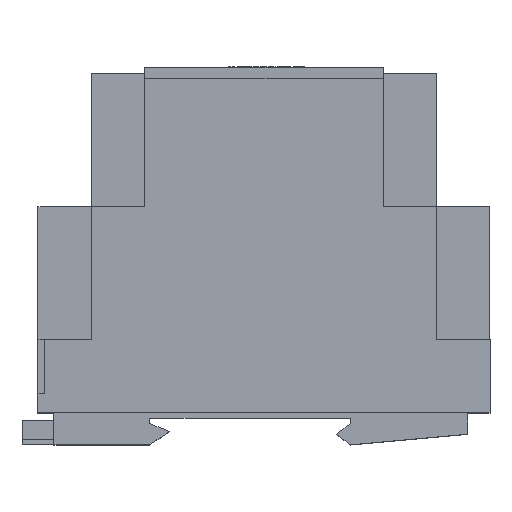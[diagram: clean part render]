
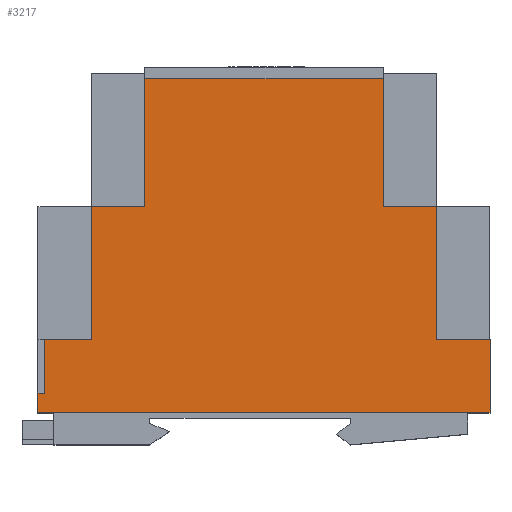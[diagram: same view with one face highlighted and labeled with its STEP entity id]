
A CAD part, top view. The second image highlights one B-rep face of the part: STEP entity #3217.
In plain terms, the highlighted planar face has unit normal (0, 0, 1).
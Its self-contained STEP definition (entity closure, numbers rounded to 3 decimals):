
#154 = LINE ( 'NONE', #4936, #12583 ) ;
#169 = VECTOR ( 'NONE', #1747, 1000. ) ;
#214 = EDGE_CURVE ( 'NONE', #12492, #4105, #4545, .T. ) ;
#321 = EDGE_CURVE ( 'NONE', #7205, #1597, #9684, .T. ) ;
#500 = CARTESIAN_POINT ( 'NONE',  ( -64.8, 0., 1.3 ) ) ;
#750 = VERTEX_POINT ( 'NONE', #12467 ) ;
#866 = DIRECTION ( 'NONE',  ( 1., 0., 0. ) ) ;
#1015 = ORIENTED_EDGE ( 'NONE', *, *, #12657, .F. ) ;
#1215 = DIRECTION ( 'NONE',  ( 1., 0., 0. ) ) ;
#1597 = VERTEX_POINT ( 'NONE', #3608 ) ;
#1713 = CARTESIAN_POINT ( 'NONE',  ( 0., 13.7, 1.3 ) ) ;
#1747 = DIRECTION ( 'NONE',  ( 0., -1., 0. ) ) ;
#1795 = DIRECTION ( 'NONE',  ( 0., 1., 0. ) ) ;
#1848 = EDGE_CURVE ( 'NONE', #13716, #14100, #10189, .T. ) ;
#2112 = CARTESIAN_POINT ( 'NONE',  ( -74.8, 13.7, 1.3 ) ) ;
#2128 = PLANE ( 'NONE',  #3010 ) ;
#2403 = VECTOR ( 'NONE', #5076, 1000. ) ;
#2537 = LINE ( 'NONE', #500, #10865 ) ;
#3010 = AXIS2_PLACEMENT_3D ( 'NONE', #3203, #9004, #8951 ) ;
#3153 = VECTOR ( 'NONE', #11023, 1000. ) ;
#3203 = CARTESIAN_POINT ( 'NONE',  ( 0., 0., 1.3 ) ) ;
#3217 = ADVANCED_FACE ( 'NONE', ( #5017 ), #2128, .T. ) ;
#3451 = ORIENTED_EDGE ( 'NONE', *, *, #1848, .F. ) ;
#3599 = DIRECTION ( 'NONE',  ( 0., 1., 0. ) ) ;
#3608 = CARTESIAN_POINT ( 'NONE',  ( -20., 38.7, 1.3 ) ) ;
#3849 = VERTEX_POINT ( 'NONE', #1713 ) ;
#3933 = VERTEX_POINT ( 'NONE', #9866 ) ;
#3935 = ORIENTED_EDGE ( 'NONE', *, *, #5645, .F. ) ;
#4028 = ORIENTED_EDGE ( 'NONE', *, *, #10347, .F. ) ;
#4105 = VERTEX_POINT ( 'NONE', #2112 ) ;
#4447 = VERTEX_POINT ( 'NONE', #10771 ) ;
#4460 = CARTESIAN_POINT ( 'NONE',  ( -74.8, 38.7, 1.3 ) ) ;
#4514 = ORIENTED_EDGE ( 'NONE', *, *, #13432, .F. ) ;
#4545 = LINE ( 'NONE', #6744, #7210 ) ;
#4589 = EDGE_CURVE ( 'NONE', #750, #12465, #2537, .T. ) ;
#4936 = CARTESIAN_POINT ( 'NONE',  ( -74.8, 0., 1.3 ) ) ;
#5017 = FACE_OUTER_BOUND ( 'NONE', #13974, .T. ) ;
#5076 = DIRECTION ( 'NONE',  ( 0., -1., 0. ) ) ;
#5106 = VERTEX_POINT ( 'NONE', #10340 ) ;
#5393 = LINE ( 'NONE', #9086, #9470 ) ;
#5645 = EDGE_CURVE ( 'NONE', #3849, #3933, #12596, .T. ) ;
#5671 = CARTESIAN_POINT ( 'NONE',  ( -20., 62.7, 1.3 ) ) ;
#5768 = CARTESIAN_POINT ( 'NONE',  ( -84.8, 3.7, 1.3 ) ) ;
#5789 = CARTESIAN_POINT ( 'NONE',  ( -83.5, 3.7, 1.3 ) ) ;
#5936 = DIRECTION ( 'NONE',  ( 0., 1., 0. ) ) ;
#6054 = CARTESIAN_POINT ( 'NONE',  ( -10., 38.7, 1.3 ) ) ;
#6292 = LINE ( 'NONE', #7615, #7720 ) ;
#6464 = CARTESIAN_POINT ( 'NONE',  ( 0., 62.7, 1.3 ) ) ;
#6588 = CARTESIAN_POINT ( 'NONE',  ( 0., 38.7, 1.3 ) ) ;
#6744 = CARTESIAN_POINT ( 'NONE',  ( 0., 13.7, 1.3 ) ) ;
#6842 = LINE ( 'NONE', #6588, #7200 ) ;
#6940 = EDGE_CURVE ( 'NONE', #4105, #12355, #154, .T. ) ;
#7200 = VECTOR ( 'NONE', #11061, 1000. ) ;
#7205 = VERTEX_POINT ( 'NONE', #5671 ) ;
#7210 = VECTOR ( 'NONE', #12459, 1000. ) ;
#7288 = ORIENTED_EDGE ( 'NONE', *, *, #9255, .F. ) ;
#7383 = CARTESIAN_POINT ( 'NONE',  ( -20., 0., 1.3 ) ) ;
#7537 = EDGE_CURVE ( 'NONE', #4447, #3849, #12571, .T. ) ;
#7599 = VECTOR ( 'NONE', #866, 1000. ) ;
#7615 = CARTESIAN_POINT ( 'NONE',  ( -83.5, 3.7, 1.3 ) ) ;
#7680 = ORIENTED_EDGE ( 'NONE', *, *, #214, .F. ) ;
#7693 = CARTESIAN_POINT ( 'NONE',  ( -84.8, 0., 1.3 ) ) ;
#7720 = VECTOR ( 'NONE', #8707, 1000. ) ;
#7826 = ORIENTED_EDGE ( 'NONE', *, *, #7537, .F. ) ;
#7873 = CARTESIAN_POINT ( 'NONE',  ( -84.8, 0., 1.3 ) ) ;
#8287 = LINE ( 'NONE', #12666, #14171 ) ;
#8409 = ORIENTED_EDGE ( 'NONE', *, *, #6940, .F. ) ;
#8592 = VECTOR ( 'NONE', #5936, 1000. ) ;
#8648 = ORIENTED_EDGE ( 'NONE', *, *, #321, .F. ) ;
#8707 = DIRECTION ( 'NONE',  ( -1., 0., 0. ) ) ;
#8951 = DIRECTION ( 'NONE',  ( 1., 0., 0. ) ) ;
#9004 = DIRECTION ( 'NONE',  ( 0., 0., 1. ) ) ;
#9086 = CARTESIAN_POINT ( 'NONE',  ( 0., 38.7, 1.3 ) ) ;
#9255 = EDGE_CURVE ( 'NONE', #1597, #13852, #5393, .T. ) ;
#9349 = VECTOR ( 'NONE', #9574, 1000. ) ;
#9358 = ORIENTED_EDGE ( 'NONE', *, *, #4589, .F. ) ;
#9383 = LINE ( 'NONE', #5789, #9721 ) ;
#9470 = VECTOR ( 'NONE', #1215, 1000. ) ;
#9485 = CARTESIAN_POINT ( 'NONE',  ( -10., 0., 1.3 ) ) ;
#9574 = DIRECTION ( 'NONE',  ( 0., -1., 0. ) ) ;
#9684 = LINE ( 'NONE', #7383, #9349 ) ;
#9721 = VECTOR ( 'NONE', #3599, 1000. ) ;
#9866 = CARTESIAN_POINT ( 'NONE',  ( 0., 0., 1.3 ) ) ;
#10000 = EDGE_CURVE ( 'NONE', #5106, #12492, #9383, .T. ) ;
#10189 = LINE ( 'NONE', #7873, #8592 ) ;
#10340 = CARTESIAN_POINT ( 'NONE',  ( -83.5, 3.7, 1.3 ) ) ;
#10347 = EDGE_CURVE ( 'NONE', #12465, #7205, #10628, .T. ) ;
#10349 = CARTESIAN_POINT ( 'NONE',  ( -64.8, 62.7, 1.3 ) ) ;
#10628 = LINE ( 'NONE', #6464, #7599 ) ;
#10771 = CARTESIAN_POINT ( 'NONE',  ( -10., 13.7, 1.3 ) ) ;
#10786 = ORIENTED_EDGE ( 'NONE', *, *, #11502, .F. ) ;
#10865 = VECTOR ( 'NONE', #1795, 1000. ) ;
#10866 = CARTESIAN_POINT ( 'NONE',  ( 0., 0., 1.3 ) ) ;
#11023 = DIRECTION ( 'NONE',  ( 1., 0., 0. ) ) ;
#11061 = DIRECTION ( 'NONE',  ( 1., 0., 0. ) ) ;
#11502 = EDGE_CURVE ( 'NONE', #3933, #13716, #8287, .T. ) ;
#11635 = ORIENTED_EDGE ( 'NONE', *, *, #10000, .F. ) ;
#12118 = CARTESIAN_POINT ( 'NONE',  ( 0., 13.7, 1.3 ) ) ;
#12355 = VERTEX_POINT ( 'NONE', #4460 ) ;
#12459 = DIRECTION ( 'NONE',  ( 1., 0., 0. ) ) ;
#12465 = VERTEX_POINT ( 'NONE', #10349 ) ;
#12467 = CARTESIAN_POINT ( 'NONE',  ( -64.8, 38.7, 1.3 ) ) ;
#12492 = VERTEX_POINT ( 'NONE', #13043 ) ;
#12571 = LINE ( 'NONE', #12118, #3153 ) ;
#12583 = VECTOR ( 'NONE', #12875, 1000. ) ;
#12596 = LINE ( 'NONE', #10866, #169 ) ;
#12657 = EDGE_CURVE ( 'NONE', #12355, #750, #6842, .T. ) ;
#12666 = CARTESIAN_POINT ( 'NONE',  ( 0., 0., 1.3 ) ) ;
#12875 = DIRECTION ( 'NONE',  ( 0., 1., 0. ) ) ;
#12941 = EDGE_CURVE ( 'NONE', #5106, #14100, #6292, .T. ) ;
#13043 = CARTESIAN_POINT ( 'NONE',  ( -83.5, 13.7, 1.3 ) ) ;
#13432 = EDGE_CURVE ( 'NONE', #13852, #4447, #14124, .T. ) ;
#13445 = ORIENTED_EDGE ( 'NONE', *, *, #12941, .T. ) ;
#13663 = DIRECTION ( 'NONE',  ( -1., 0., 0. ) ) ;
#13716 = VERTEX_POINT ( 'NONE', #7693 ) ;
#13852 = VERTEX_POINT ( 'NONE', #6054 ) ;
#13974 = EDGE_LOOP ( 'NONE', ( #13445, #3451, #10786, #3935, #7826, #4514, #7288, #8648, #4028, #9358, #1015, #8409, #7680, #11635 ) ) ;
#14100 = VERTEX_POINT ( 'NONE', #5768 ) ;
#14124 = LINE ( 'NONE', #9485, #2403 ) ;
#14171 = VECTOR ( 'NONE', #13663, 1000. ) ;
